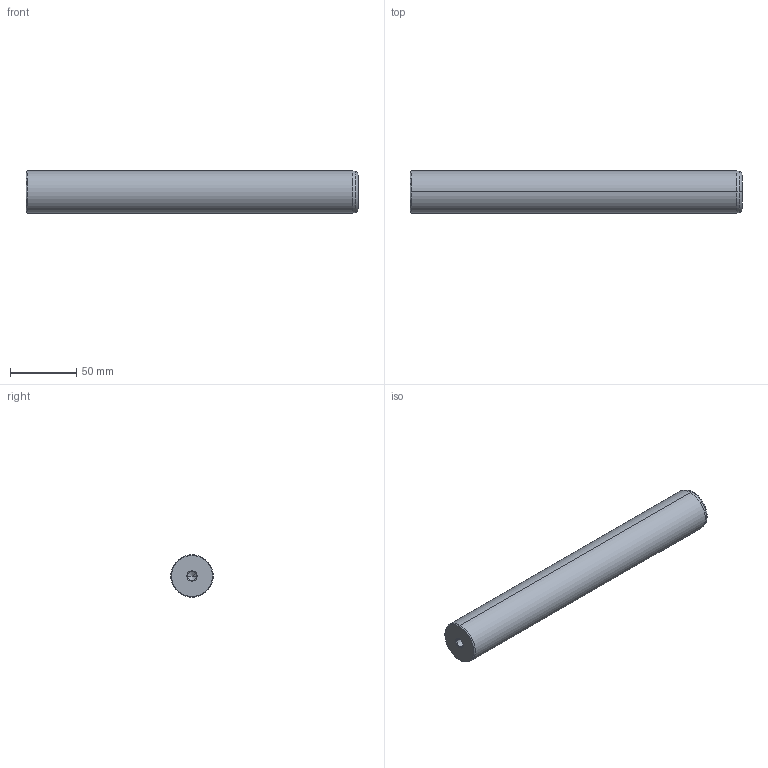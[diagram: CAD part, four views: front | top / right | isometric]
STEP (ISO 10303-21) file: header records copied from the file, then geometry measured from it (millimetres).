
FILE_DESCRIPTION(('CATIA V5 STEP Exchange'),'2;1');
FILE_NAME('C:\Users\Utente\Desktop\IO LAVORO\3D X SITO CF\X SITO\720\720-32x250.stp','2021-01-01T12:16:01+00:00',('none'),('none'),'CATIA Version 5 Release 20 GA (IN-10)','CATIA V5 STEP AP203','none');
FILE_SCHEMA(('CONFIG_CONTROL_DESIGN'));
Length unit declared in the file: millimetre
Products named in the file (1): 720-32x250
Bounding box: 250 x 32 x 32 mm (x, y, z)
Volume: 199009.4 mm3; surface area: 27525.5 mm2
Topology: 1 solids, 1 shells, 22 faces, 56 edges, 34 vertices
Faces by surface type: cone 12, cylinder 6, plane 2, torus 2
Entity records: 755 total; most frequent: CARTESIAN_POINT 216, ORIENTED_EDGE 104, DIRECTION 89, EDGE_CURVE 52, AXIS2_PLACEMENT_3D 50, VERTEX_POINT 34, CIRCLE 27, EDGE_LOOP 24
